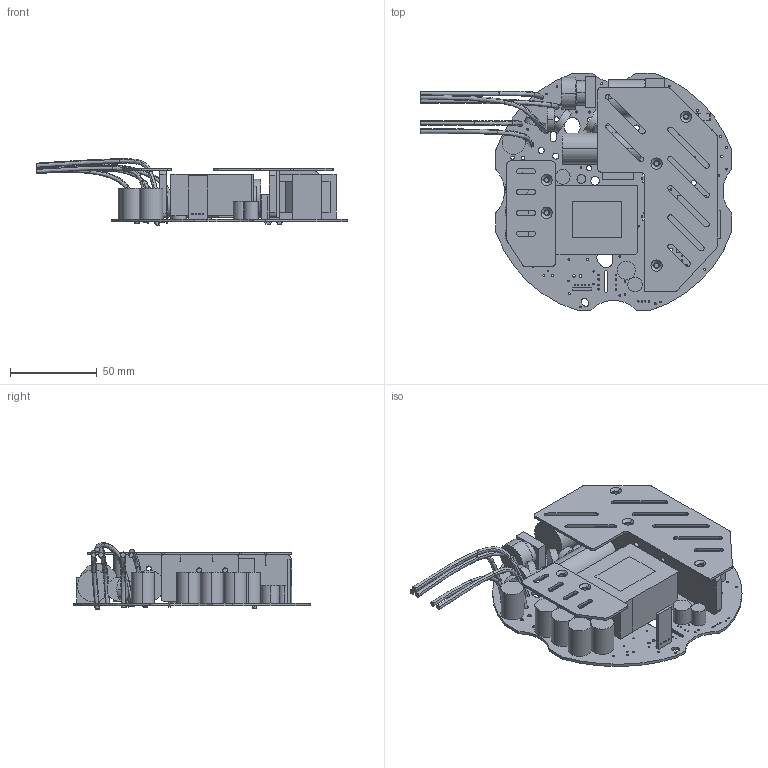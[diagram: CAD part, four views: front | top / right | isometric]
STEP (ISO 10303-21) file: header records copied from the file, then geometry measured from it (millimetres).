
FILE_DESCRIPTION((''),'2;1');
FILE_NAME('HBG-240P-R6_ASM','2020-07-06T09:04:48',('shalinice'),(''),'CREO PARAMETRIC BY PTC INC, 2016390','CREO PARAMETRIC BY PTC INC, 2016390','');
FILE_SCHEMA(('AUTOMOTIVE_DESIGN { 1 0 10303 214 1 1 1 1 }'));
Products named in the file (64): BOARD-37; EXTRUDED-80970; 833154688_ASM; EXTRUDED-81342; 833153624_ASM; EXTRUDED-81714; 833154080_ASM; D75_ASM; D78_ASM; BOARD-82273; HBG-240C-R2_ASM; HS5; HS6; HS1_1; PIN_1; HS1_ASM_ASM; PIN_1_1; HS3_1; HS3_ASM_ASM; HS_ASM; EXTRUDED-106936; 1080304040_ASM; EXTRUDED-107776; 1080308600_ASM; CYLINDER-108772; 498904608_ASM; CYLINDER-108964; 498956448_ASM; CYLINDER-109156; 498961344_ASM; CYLINDER-109348; 498913392_ASM; CYLINDER-109540; 498938592_ASM; CYLINDER-109732; 1080304344_ASM; CYLINDER-109944; 498904032_ASM; EXTRUDED-110136; 1080308904_ASM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
Assembly tree (73 placements, depth 6):
  HBG-240P-R6_ASM
    PCB_ASM
      BOARD-37
      D75_ASM
        833154688_ASM
          EXTRUDED-80970
        833153624_ASM
          EXTRUDED-81342
        833154080_ASM  x2
          EXTRUDED-81714
      D78_ASM
        833154080_ASM  x2
          EXTRUDED-81714
        833153624_ASM
          EXTRUDED-81342
        833154688_ASM
          EXTRUDED-80970
      FREE-MODELS_ASM
        HBG-240C-R2_ASM
          BOARD-82273
        HS_ASM
          HS5
          HS6
          HS1_ASM_ASM
            HS1_1
            PIN_1
          HS3_ASM_ASM
            PIN_1_1
            HS3_1
        1080304040_ASM
          EXTRUDED-106936
        1080308600_ASM
          EXTRUDED-107776
        498904608_ASM
          CYLINDER-108772
        498956448_ASM
          CYLINDER-108964
        498961344_ASM
          CYLINDER-109156
        498913392_ASM
          CYLINDER-109348
        498938592_ASM
          CYLINDER-109540
        1080304344_ASM  x5
          CYLINDER-109732
        498904032_ASM
          CYLINDER-109944
        1080308904_ASM
          EXTRUDED-110136
        1080311032_ASM
          EXTRUDED-110508
        498945216_ASM
          CYLINDER-110880
        498906048_ASM
          CYLINDER-111072
        1080305560_ASM
          EXTRUDED-111264
        1080308448_ASM
          EXTRUDED-112454
        498937872_ASM
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Bounding box: 179.95 x 137.31 x 38.53 mm (x, y, z)
Volume: 176670.5 mm3; surface area: 102267.3 mm2
Topology: 41 solids, 46 shells, 1686 faces, 4739 edges, 3150 vertices
Faces by surface type: plane 1018, cylinder 572, bspline 60, cone 36
Entity records: 87650 total; most frequent: CARTESIAN_POINT 27896, ORIENTED_EDGE 9298, DIRECTION 8480, EDGE_CURVE 4649, PRESENTATION_STYLE_ASSIGNMENT 4540, STYLED_ITEM 4540, CURVE_STYLE 4509, VERTEX_POINT 3090
